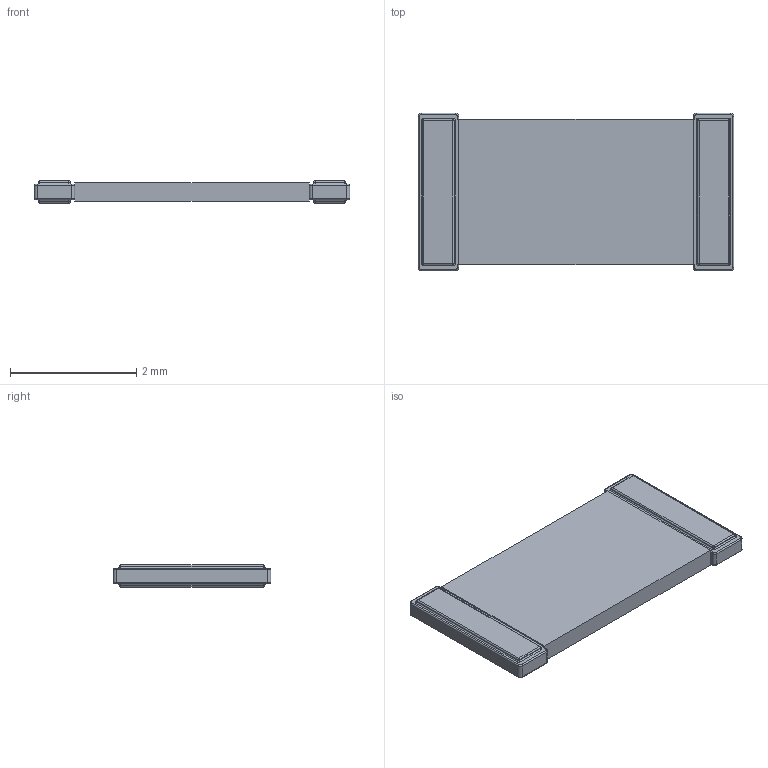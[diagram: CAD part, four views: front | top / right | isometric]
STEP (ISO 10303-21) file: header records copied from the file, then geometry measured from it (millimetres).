
FILE_DESCRIPTION(('STEP AP203'), '1');
FILE_NAME('R2-105-2010-1(0.0033-0.01)', '', ('UNSPECIFIED'), ('UNSPECIFIED'), 'ASCON STEP Converter 1.6', 'ASCON Math Kernel', '');
FILE_SCHEMA(('CONFIG_CONTROL_DESIGN'));
Length unit declared in the file: millimetre
Bounding box: 5 x 2.5 x 0.35 mm (x, y, z)
Volume: 3.4 mm3; surface area: 32.9 mm2
Topology: 1 solids, 3 shells, 166 faces, 384 edges, 212 vertices
Faces by surface type: cylinder 76, plane 50, torus 28, sphere 12
Entity records: 5912 total; most frequent: DIRECTION 862, CARTESIAN_POINT 775, ORIENTED_EDGE 744, EDGE_CURVE 372, AXIS2_PLACEMENT_3D 331, VERTEX_POINT 212, LINE 200, VECTOR 200
